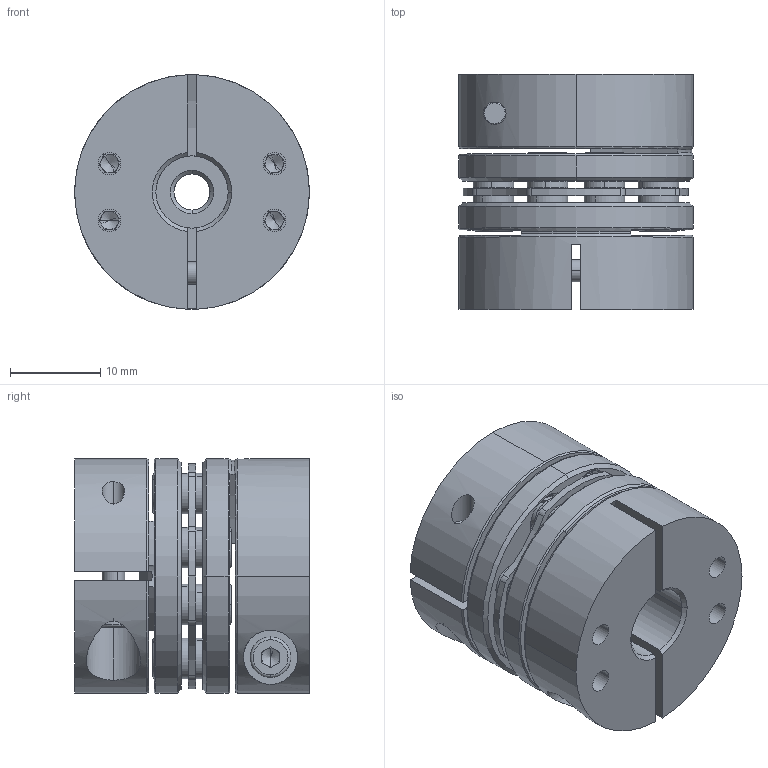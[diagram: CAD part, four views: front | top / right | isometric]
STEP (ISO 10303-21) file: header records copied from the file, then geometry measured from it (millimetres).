
FILE_DESCRIPTION (( 'STEP AP203' ), '1' );
FILE_NAME ('LDG-D26-4-8.STEP', '2021-10-28T03:20:31', ( '' ), ( '' ), 'SwSTEP 2.0', 'SolidWorks 2018', '' );
FILE_SCHEMA (( 'CONFIG_CONTROL_DESIGN' ));
Length unit declared in the file: millimetre
Products named in the file (2): 錨璃2^LDG-D26蚾饜芞1; LDG-D26-4-8
Assembly tree (1 placements, depth 2):
  LDG-D26-4-8
    錨璃2^LDG-D26蚾饜芞1
Bounding box: 26 x 26 x 26 mm (x, y, z)
Volume: 10525.7 mm3; surface area: 9116.8 mm2
Topology: 1 solids, 21 shells, 765 faces, 1872 edges, 1159 vertices
Faces by surface type: cylinder 301, plane 244, cone 200, torus 20
Entity records: 23059 total; most frequent: DIRECTION 4281, CARTESIAN_POINT 4166, ORIENTED_EDGE 3688, EDGE_CURVE 1844, AXIS2_PLACEMENT_3D 1740, VERTEX_POINT 1159, CIRCLE 971, EDGE_LOOP 909
